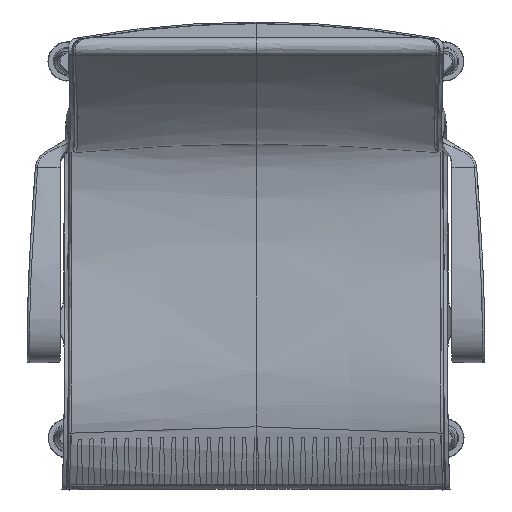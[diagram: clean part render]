
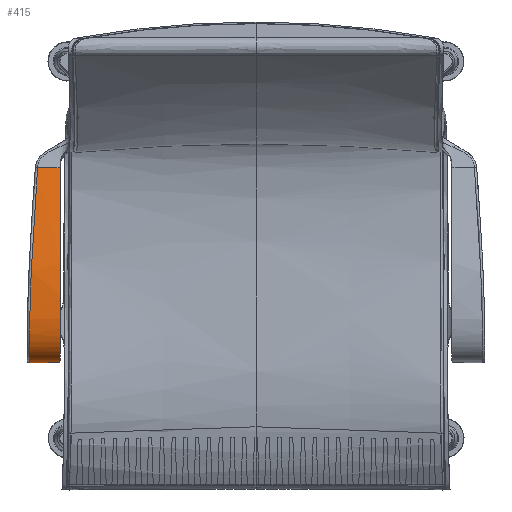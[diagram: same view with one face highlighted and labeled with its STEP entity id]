
A CAD part, top view. The second image highlights one B-rep face of the part: STEP entity #415.
In plain terms, the highlighted free-form (B-spline) face has degree [3, 1] with [12, 2] control points.
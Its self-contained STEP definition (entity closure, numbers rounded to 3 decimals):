
#120=B_SPLINE_SURFACE_WITH_KNOTS('',3,1,((#18937,#18938),(#18939,#18940),
(#18941,#18942),(#18943,#18944),(#18945,#18946),(#18947,#18948),(#18949,
#18950),(#18951,#18952),(#18953,#18954),(#18955,#18956),(#18957,#18958),
(#18959,#18960)),.UNSPECIFIED.,.F.,.F.,.F.,(4,1,1,1,1,1,1,1,1,4),(2,2),
(12.022,54.586,109.173,163.759,218.345,
272.932,327.518,382.104,436.691,466.887),
(-31.67,0.),.UNSPECIFIED.);
#415=ADVANCED_FACE('',(#749),#120,.T.);
#749=FACE_OUTER_BOUND('',#1084,.T.);
#1084=EDGE_LOOP('',(#2345,#2346,#2347,#2348));
#2345=ORIENTED_EDGE('',*,*,#4065,.T.);
#2346=ORIENTED_EDGE('',*,*,#4061,.T.);
#2347=ORIENTED_EDGE('',*,*,#4040,.T.);
#2348=ORIENTED_EDGE('',*,*,#4041,.T.);
#4040=EDGE_CURVE('',#6281,#6282,#5015,.T.);
#4041=EDGE_CURVE('',#6282,#6289,#5016,.T.);
#4061=EDGE_CURVE('',#6290,#6281,#5036,.T.);
#4065=EDGE_CURVE('',#6289,#6290,#5574,.T.);
#5015=B_SPLINE_CURVE_WITH_KNOTS('',3,(#28933,#28934,#28935,#28936,#28937,
#28938,#28939,#28940,#28941,#28942,#28943,#28944),.UNSPECIFIED.,.F.,.F.,
(4,1,1,1,1,1,1,1,1,4),(-466.887,-436.691,-382.104,
-327.518,-272.932,-218.345,-163.759,
-109.173,-54.586,-12.022),.UNSPECIFIED.);
#5016=B_SPLINE_CURVE_WITH_KNOTS('',1,(#28945,#28946),.UNSPECIFIED.,.F.,
 .F.,(2,2),(0.,28.661),.UNSPECIFIED.);
#5036=B_SPLINE_CURVE_WITH_KNOTS('',1,(#29230,#29231),.UNSPECIFIED.,.F.,
 .F.,(2,2),(-28.469,0.),.UNSPECIFIED.);
#5574=(
BOUNDED_CURVE()
B_SPLINE_CURVE(3,(#29242,#29243,#29244,#29245,#29246,#29247,#29248,#29249,
#29250,#29251,#29252,#29253,#29254,#29255,#29256,#29257,#29258,#29259,#29260,
#29261,#29262,#29263,#29264,#29265,#29266,#29267,#29268,#29269,#29270,#29271,
#29272,#29273,#29274,#29275,#29276,#29277,#29278,#29279,#29280,#29281,#29282,
#29283,#29284,#29285,#29286,#29287,#29288),.UNSPECIFIED.,.F.,.F.)
B_SPLINE_CURVE_WITH_KNOTS((4,3,1,3,3,3,1,1,1,3,3,3,3,3,3,1,1,1,3,3,4),(-0.245,
0.,49.272,95.522,143.284,
167.165,185.869,202.239,215.321,228.404,
240.875,247.111,253.347,265.817,278.272,
292.982,311.11,332.383,355.583,388.016,
420.686),.UNSPECIFIED.)
CURVE()
GEOMETRIC_REPRESENTATION_ITEM()
RATIONAL_B_SPLINE_CURVE((1.,1.,1.,1.,1.,1.,1.,
1.,1.,1.,1.,1.,1.,1.,1.,1.,1.,1.,1.,1.,1.,
1.,1.,1.,1.,1.,1.,1.,1.,1.,1.,1.,1.,1.,1.,1.,
1.,1.,1.,1.,1.,1.,1.,1.,1.,1.,1.))
REPRESENTATION_ITEM('')
);
#6281=VERTEX_POINT('',#26724);
#6282=VERTEX_POINT('',#26725);
#6289=VERTEX_POINT('',#26732);
#6290=VERTEX_POINT('',#26733);
#18937=CARTESIAN_POINT('',(-281.67,103.387,713.484));
#18938=CARTESIAN_POINT('',(-250.,103.387,713.484));
#18939=CARTESIAN_POINT('',(-284.065,74.823,720.03));
#18940=CARTESIAN_POINT('',(-250.,74.823,720.03));
#18941=CARTESIAN_POINT('',(-288.22,11.656,733.698));
#18942=CARTESIAN_POINT('',(-250.,11.656,733.698));
#18943=CARTESIAN_POINT('',(-291.,-57.023,740.437));
#18944=CARTESIAN_POINT('',(-250.,-57.023,740.437));
#18945=CARTESIAN_POINT('',(-292.,-100.771,739.78));
#18946=CARTESIAN_POINT('',(-250.,-100.771,739.78));
#18947=CARTESIAN_POINT('',(-292.,-131.855,729.003));
#18948=CARTESIAN_POINT('',(-250.,-131.855,729.003));
#18949=CARTESIAN_POINT('',(-292.,-146.465,705.752));
#18950=CARTESIAN_POINT('',(-250.,-146.465,705.752));
#18951=CARTESIAN_POINT('',(-292.,-145.072,678.05));
#18952=CARTESIAN_POINT('',(-250.5,-145.072,678.05));
#18953=CARTESIAN_POINT('',(-291.,-136.359,639.816));
#18954=CARTESIAN_POINT('',(-251.5,-136.359,639.816));
#18955=CARTESIAN_POINT('',(-289.043,-125.041,595.689));
#18956=CARTESIAN_POINT('',(-253.202,-125.041,595.689));
#18957=CARTESIAN_POINT('',(-286.545,-115.28,560.459));
#18958=CARTESIAN_POINT('',(-254.941,-115.28,560.459));
#18959=CARTESIAN_POINT('',(-285.387,-112.055,546.65));
#18960=CARTESIAN_POINT('',(-255.643,-112.055,546.65));
#26724=CARTESIAN_POINT('',(-255.643,-112.055,546.65));
#26725=CARTESIAN_POINT('',(-250.,103.387,713.484));
#26732=CARTESIAN_POINT('',(-278.661,103.387,713.484));
#26733=CARTESIAN_POINT('',(-282.38,-112.055,546.65));
#28933=CARTESIAN_POINT('',(-255.643,-112.055,546.65));
#28934=CARTESIAN_POINT('',(-254.941,-115.28,560.459));
#28935=CARTESIAN_POINT('',(-253.202,-125.041,595.689));
#28936=CARTESIAN_POINT('',(-251.5,-136.359,639.816));
#28937=CARTESIAN_POINT('',(-250.5,-145.072,678.05));
#28938=CARTESIAN_POINT('',(-250.,-146.465,705.752));
#28939=CARTESIAN_POINT('',(-250.,-131.855,729.003));
#28940=CARTESIAN_POINT('',(-250.,-100.771,739.78));
#28941=CARTESIAN_POINT('',(-250.,-57.023,740.437));
#28942=CARTESIAN_POINT('',(-250.,11.656,733.698));
#28943=CARTESIAN_POINT('',(-250.,74.823,720.03));
#28944=CARTESIAN_POINT('',(-250.,103.387,713.484));
#28945=CARTESIAN_POINT('',(-250.,103.387,713.484));
#28946=CARTESIAN_POINT('',(-278.661,103.387,713.484));
#29230=CARTESIAN_POINT('',(-282.38,-112.055,546.65));
#29231=CARTESIAN_POINT('',(-255.643,-112.055,546.65));
#29242=CARTESIAN_POINT('',(-278.661,103.387,713.484));
#29243=CARTESIAN_POINT('',(-278.667,103.308,713.502));
#29244=CARTESIAN_POINT('',(-278.674,103.228,713.52));
#29245=CARTESIAN_POINT('',(-278.681,103.149,713.539));
#29246=CARTESIAN_POINT('',(-280.02,87.178,717.195));
#29247=CARTESIAN_POINT('',(-282.324,56.146,724.109));
#29248=CARTESIAN_POINT('',(-284.186,24.822,730.085));
#29249=CARTESIAN_POINT('',(-284.995,9.542,732.465));
#29250=CARTESIAN_POINT('',(-285.831,-6.231,734.926));
#29251=CARTESIAN_POINT('',(-286.558,-22.102,736.874));
#29252=CARTESIAN_POINT('',(-287.165,-38.043,738.162));
#29253=CARTESIAN_POINT('',(-287.469,-46.015,738.802));
#29254=CARTESIAN_POINT('',(-287.746,-53.992,739.294));
#29255=CARTESIAN_POINT('',(-287.994,-62.004,739.577));
#29256=CARTESIAN_POINT('',(-288.189,-68.271,739.781));
#29257=CARTESIAN_POINT('',(-288.517,-80.097,739.947));
#29258=CARTESIAN_POINT('',(-288.827,-96.426,738.717));
#29259=CARTESIAN_POINT('',(-288.969,-110.779,735.888));
#29260=CARTESIAN_POINT('',(-288.995,-119.375,732.681));
#29261=CARTESIAN_POINT('',(-288.998,-123.468,730.49));
#29262=CARTESIAN_POINT('',(-289.001,-127.359,728.413));
#29263=CARTESIAN_POINT('',(-289.,-131.052,725.731));
#29264=CARTESIAN_POINT('',(-289.,-134.153,722.465));
#29265=CARTESIAN_POINT('',(-289.,-135.707,720.836));
#29266=CARTESIAN_POINT('',(-289.,-137.12,719.071));
#29267=CARTESIAN_POINT('',(-289.,-138.369,717.197));
#29268=CARTESIAN_POINT('',(-289.,-139.619,715.323));
#29269=CARTESIAN_POINT('',(-289.,-140.705,713.342));
#29270=CARTESIAN_POINT('',(-289.,-141.614,711.287));
#29271=CARTESIAN_POINT('',(-288.999,-143.442,707.182));
#29272=CARTESIAN_POINT('',(-289.002,-144.534,702.761));
#29273=CARTESIAN_POINT('',(-288.997,-144.985,698.368));
#29274=CARTESIAN_POINT('',(-288.993,-145.445,693.975));
#29275=CARTESIAN_POINT('',(-288.977,-145.331,689.621));
#29276=CARTESIAN_POINT('',(-288.942,-144.968,685.362));
#29277=CARTESIAN_POINT('',(-288.901,-144.521,680.33));
#29278=CARTESIAN_POINT('',(-288.744,-142.84,669.341));
#29279=CARTESIAN_POINT('',(-288.286,-139.029,651.584));
#29280=CARTESIAN_POINT('',(-287.577,-134.086,631.285));
#29281=CARTESIAN_POINT('',(-286.945,-130.445,616.906));
#29282=CARTESIAN_POINT('',(-286.568,-128.493,609.422));
#29283=CARTESIAN_POINT('',(-286.042,-125.775,598.959));
#29284=CARTESIAN_POINT('',(-285.433,-122.969,588.513));
#29285=CARTESIAN_POINT('',(-284.743,-120.134,578.105));
#29286=CARTESIAN_POINT('',(-284.049,-117.284,567.625));
#29287=CARTESIAN_POINT('',(-283.265,-114.506,557.166));
#29288=CARTESIAN_POINT('',(-282.38,-112.055,546.65));
